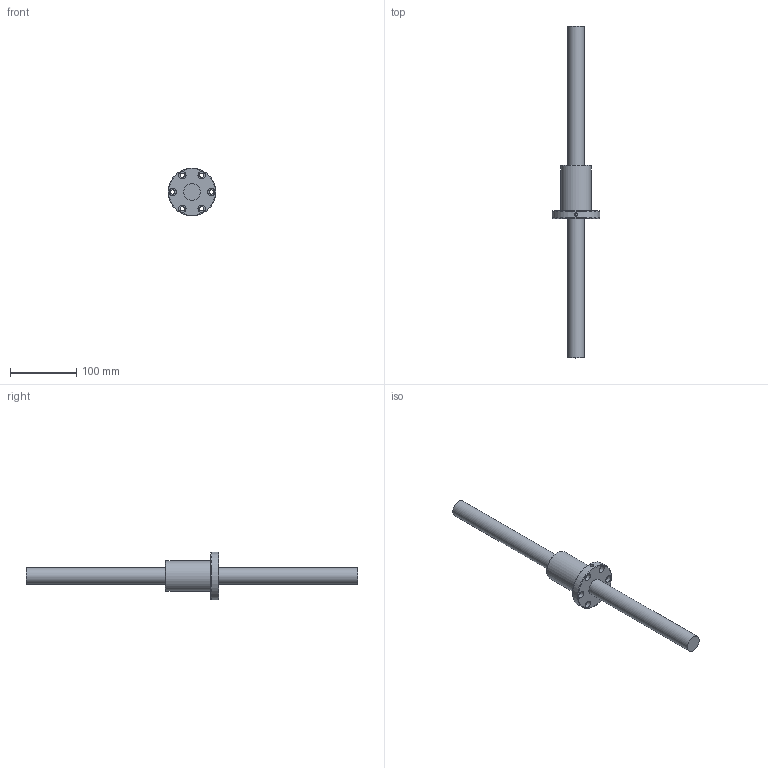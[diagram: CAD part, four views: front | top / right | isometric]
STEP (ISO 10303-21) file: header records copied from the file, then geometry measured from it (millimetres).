
FILE_DESCRIPTION (( 'STEP AP203' ), '1' );
FILE_NAME ('SFNI2510.STEP', '2023-06-05T08:35:56', ( '' ), ( '' ), 'SwSTEP 2.0', 'SolidWorks 2022', '' );
FILE_SCHEMA (( 'CONFIG_CONTROL_DESIGN' ));
Length unit declared in the file: millimetre
Products named in the file (1): SFNI2510
Bounding box: 72 x 500 x 72 mm (x, y, z)
Volume: 363121.4 mm3; surface area: 67965.9 mm2
Topology: 2 solids, 2 shells, 34 faces, 66 edges, 44 vertices
Faces by surface type: cylinder 19, plane 12, torus 3
Full cylindrical faces by diameter (mm): 4 x1, 5 x1, 6.5 x6, 11 x6, 25 x2, 46 x1, 72 x1
Entity records: 1133 total; most frequent: CARTESIAN_POINT 399, DIRECTION 145, ORIENTED_EDGE 82, EDGE_LOOP 80, AXIS2_PLACEMENT_3D 72, FACE_OUTER_BOUND 55, EDGE_CURVE 41, VERTEX_POINT 41
